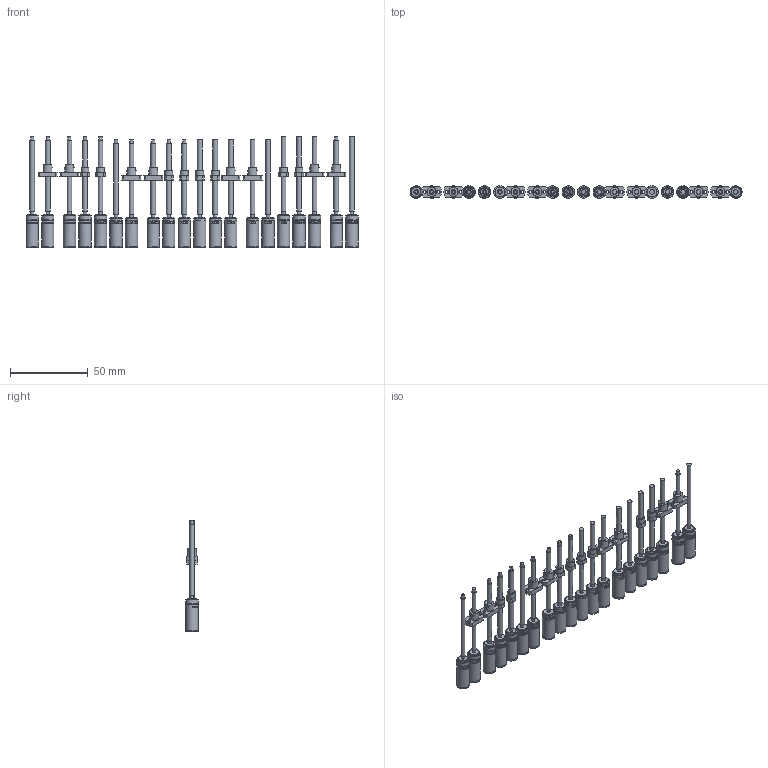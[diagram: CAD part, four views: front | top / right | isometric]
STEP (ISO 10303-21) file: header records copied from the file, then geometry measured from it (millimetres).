
FILE_DESCRIPTION(/* description */ (''),/* implementation_level */ '2;1');
FILE_NAME(/* name */ '08L-4stage_SL_standard_KWNx_KWS1_KF2.stp',/* time_stamp */ '2024-02-23T14:01:37+01:00',/* author */ ('DR. FRITZ FAULHABER GmbH & Co. KG'),/* organization */ ('DR. FRITZ FAULHABER GmbH & Co. KG'),/* preprocessor_version */ 'ST-DEVELOPER v19.3',/* originating_system */ 'SIEMENS PLM Software NX2212.4000',/* authorisation */ '');
FILE_SCHEMA (('AUTOMOTIVE_DESIGN { 1 0 10303 214 3 1 1 1 }'));
Length unit declared in the file: millimetre
Products named in the file (1): C_objects
Bounding box: 214 x 8 x 71.5 mm (x, y, z)
Volume: 28522.5 mm3; surface area: 26257.6 mm2
Topology: 20 solids, 20 shells, 2442 faces, 5985 edges, 3979 vertices
Faces by surface type: plane 1326, bspline 589, cylinder 487, cone 40
Full cylindrical faces by diameter (mm): 1.8 x16, 2 x11, 2.2 x20, 2.55 x20, 2.95 x20, 3 x36, 4.959 x30, 5 x8, 6 x38, 6.5 x10, 7 x10, 7.8 x10, 7.99 x10, 8 x60
Entity records: 111452 total; most frequent: CARTESIAN_POINT 49381, ORIENTED_EDGE 11148, DIRECTION 7683, EDGE_CURVE 5574, VERTEX_POINT 3910, EDGE_LOOP 3212, AXIS2_PLACEMENT_3D 3185, B_SPLINE_CURVE_WITH_KNOTS 2931
